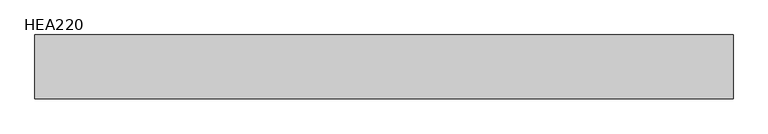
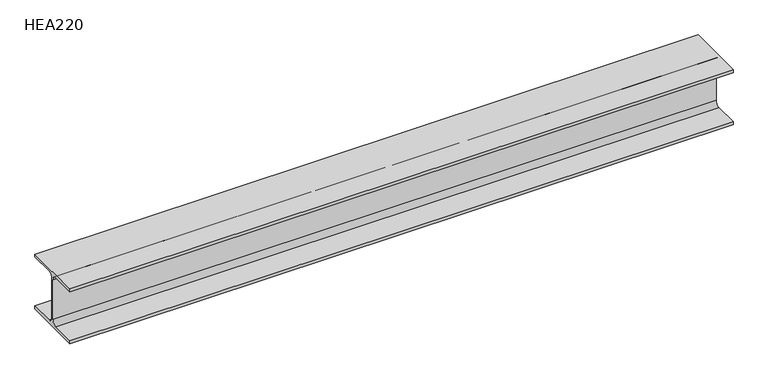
"""IFC4 building model written with IfcOpenShell, lengths in millimetres: beam geometry, HE-A : HEA220."""

from ifc_helpers import new_model, si_unit, point, frame, frame_2d, origin, place, context, project, spatial, polyline, circle_curve, trimmed, segment, composite_curve, outline, extrude, source, transform, mapped, element, save


def hea220_6158f9bf(model_context):
    return source(origin(), model_context, "Body", "SweptSolid", [
        extrude(outline(composite_curve([segment(polyline([(110.0, -94.0), (110.0, -105.0), (-110.0, -105.0), (-110.0, -94.0), (-21.5, -94.0)]), True, "CONTINUOUS"), segment(trimmed(circle_curve(frame_2d((-21.5, -76.0)), 18.0), [point((-21.5, -94.0))], [point((-3.5, -76.0))], True, "CARTESIAN"), True, "CONTINUOUS"), segment(polyline([(-3.5, -76.0), (-3.5, 76.0)]), True, "CONTINUOUS"), segment(trimmed(circle_curve(frame_2d((-21.5, 76.0)), 18.0), [point((-3.5, 76.0))], [point((-21.5, 94.0))], True, "CARTESIAN"), True, "CONTINUOUS"), segment(polyline([(-21.5, 94.0), (-110.0, 94.0), (-110.0, 105.0), (110.0, 105.0), (110.0, 94.0), (21.5, 94.0)]), True, "CONTINUOUS"), segment(trimmed(circle_curve(frame_2d((21.5, 76.0)), 18.0), [point((21.5, 94.0))], [point((3.5, 76.0))], True, "CARTESIAN"), True, "CONTINUOUS"), segment(polyline([(3.5, 76.0), (3.5, -76.0)]), True, "CONTINUOUS"), segment(trimmed(circle_curve(frame_2d((21.5, -76.0)), 18.0), [point((3.5, -76.0))], [point((21.5, -94.0))], True, "CARTESIAN"), True, "CONTINUOUS"), segment(polyline([(21.5, -94.0), (110.0, -94.0)]), True, "CONTINUOUS")], self_intersect=False)), frame((-1201.75, 0.0, 0.0), z_axis=(1.0, 0.0, 0.0), x_axis=(0.0, 1.0, 0.0)), (0.0, 0.0, 1.0), 2403.5),
    ])


if __name__ == "__main__":
    model = new_model("IFC4")
    model_context = context("Model", 3, world=origin())
    ifc_project = project(units=[si_unit("LENGTHUNIT", "METRE", prefix="MILLI")], contexts=[model_context])
    site = spatial("IfcSite", under=ifc_project)
    building = spatial("IfcBuilding", under=site)
    placement = place(None, origin())
    hea220_shape = hea220_6158f9bf(model_context)
    element("IfcBeam", 1, ObjectType="HE-A : HEA220", at=placement, inside=building, context=model_context, shape_type="MappedRepresentation", body=[
        mapped(hea220_shape, transform((0.0, 0.0, 0.0), x_axis=(1.0, 0.0, 0.0), y_axis=(0.0, 1.0, 0.0), z_axis=(0.0, 0.0, 1.0))),
    ])
    save(model, "model.ifc")
